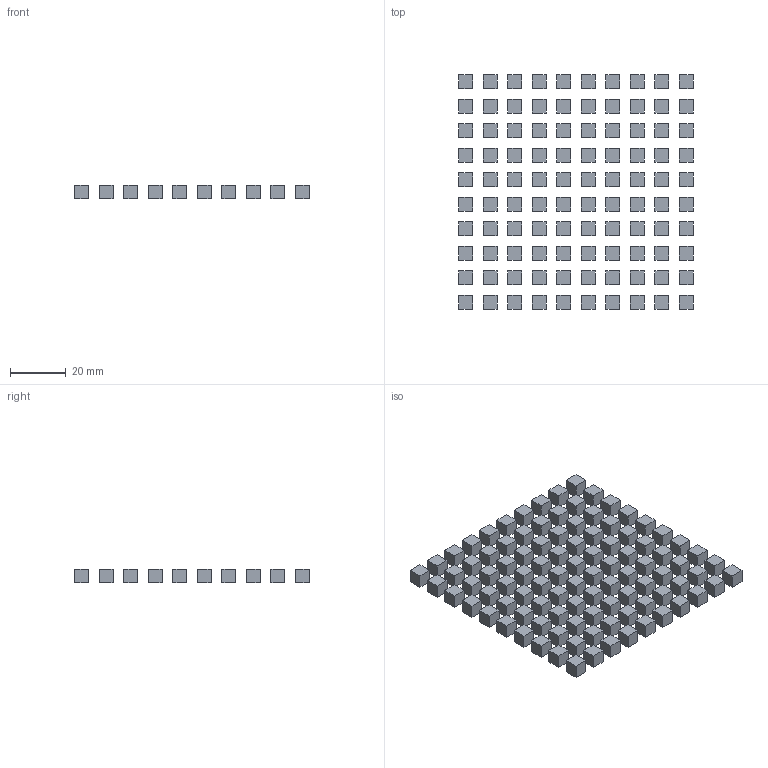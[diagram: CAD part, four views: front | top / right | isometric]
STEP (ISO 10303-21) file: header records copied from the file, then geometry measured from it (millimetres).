
FILE_DESCRIPTION(('FreeCAD Model'),'2;1');
FILE_NAME('Open CASCADE Shape Model','2026-10-10T20:57:57',(''),(''), 'Open CASCADE STEP processor 7.8','FreeCAD','Unknown');
FILE_SCHEMA(('AUTOMOTIVE_DESIGN { 1 0 10303 214 1 1 1 1 }'));
Length unit declared in the file: millimetre
Products named in the file (1): Dice_100_REFERENCE
Bounding box: 84.2 x 84.2 x 5 mm (x, y, z)
Volume: 12500 mm3; surface area: 15000 mm2
Topology: 100 solids, 100 shells, 600 faces, 1200 edges, 800 vertices
Faces by surface type: bspline 600
Entity records: 27016 total; most frequent: CARTESIAN_POINT 10401, B_SPLINE_CURVE_WITH_KNOTS 3600, ORIENTED_EDGE 2400, PCURVE 2400, DEFINITIONAL_REPRESENTATION 2400, EDGE_CURVE 1200, SURFACE_CURVE 1200, VERTEX_POINT 800
